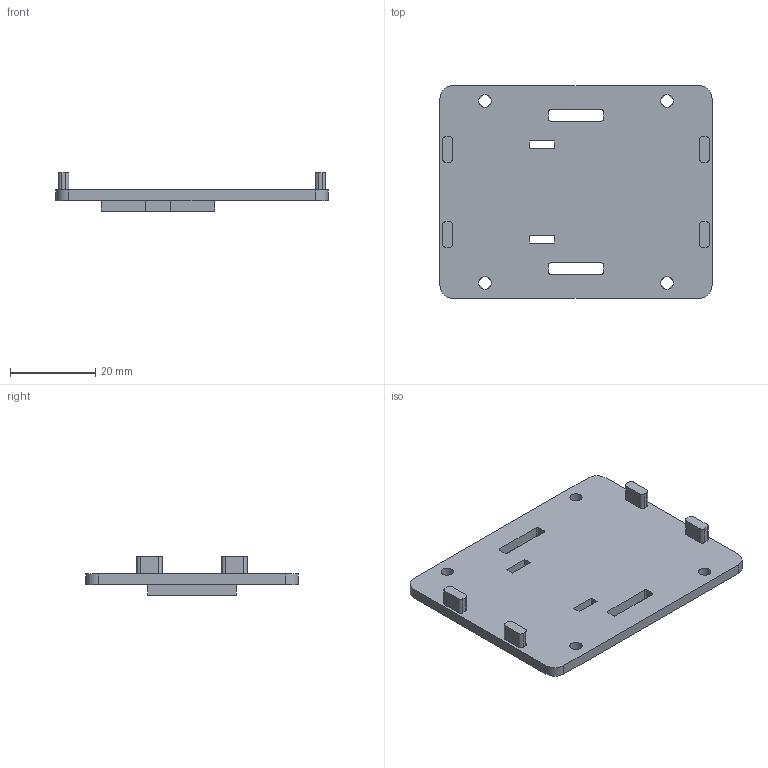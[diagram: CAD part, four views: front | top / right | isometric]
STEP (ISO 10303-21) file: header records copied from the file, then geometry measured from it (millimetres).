
FILE_DESCRIPTION(('Open CASCADE Model'),'2;1');
FILE_NAME('Open CASCADE Shape Model','2026-10-11T00:34:08',('Author'),( 'Open CASCADE'),'Open CASCADE STEP processor 7.8','Open CASCADE 7.8' ,'Unknown');
FILE_SCHEMA(('AUTOMOTIVE_DESIGN { 1 0 10303 214 1 1 1 1 }'));
Length unit declared in the file: millimetre
Products named in the file (1): Open CASCADE STEP translator 7.8 6
Bounding box: 64 x 50 x 9 mm (x, y, z)
Volume: 8343.9 mm3; surface area: 7717.5 mm2
Topology: 1 solids, 1 shells, 86 faces, 240 edges, 160 vertices
Faces by surface type: plane 54, cylinder 32
Full cylindrical faces by diameter (mm): 2.9 x4
Entity records: 5912 total; most frequent: CARTESIAN_POINT 1165, DIRECTION 860, LINE 514, VECTOR 514, ORIENTED_EDGE 480, PCURVE 480, DEFINITIONAL_REPRESENTATION 480, EDGE_CURVE 240
